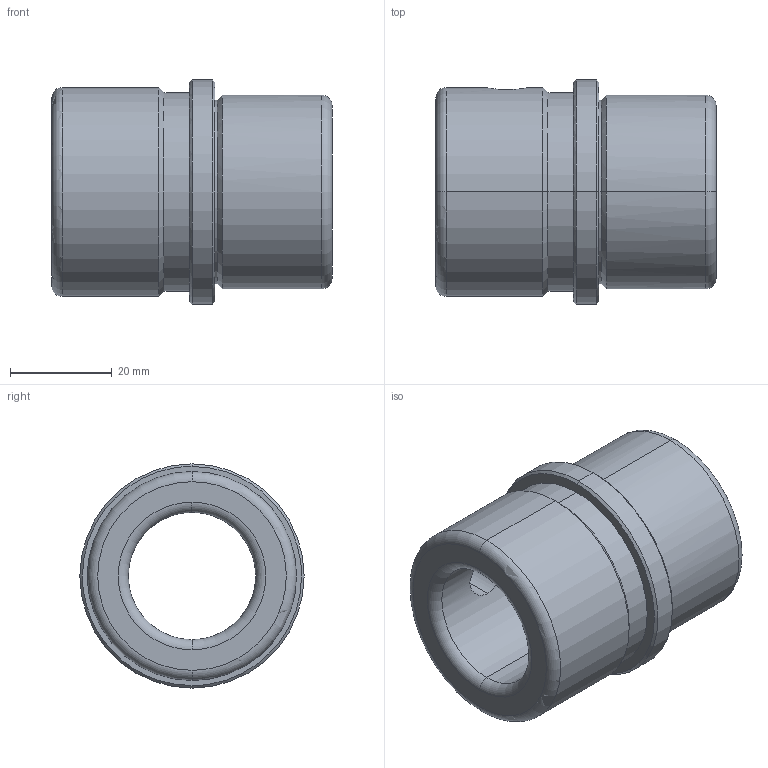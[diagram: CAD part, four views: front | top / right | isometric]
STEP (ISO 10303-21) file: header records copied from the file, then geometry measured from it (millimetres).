
FILE_DESCRIPTION(('CATIA V5 STEP Exchange'),'2;1');
FILE_NAME('C:\Users\Utente\Desktop\IO LAVORO\3D X SITO CF\X SITO\CF 641\CF 641 25 x 55.stp','2020-12-26T14:46:59+00:00',('none'),('none'),'CATIA Version 5 Release 20 GA (IN-10)','CATIA V5 STEP AP203','none');
FILE_SCHEMA(('CONFIG_CONTROL_DESIGN'));
Length unit declared in the file: millimetre
Products named in the file (1): CF 641 25 x 55
Bounding box: 55 x 44 x 44 mm (x, y, z)
Volume: 40482.5 mm3; surface area: 13433.8 mm2
Topology: 1 solids, 1 shells, 37 faces, 126 edges, 94 vertices
Faces by surface type: cylinder 14, cone 10, torus 8, plane 5
Entity records: 1642 total; most frequent: CARTESIAN_POINT 514, ORIENTED_EDGE 252, DIRECTION 178, EDGE_CURVE 126, AXIS2_PLACEMENT_3D 118, VERTEX_POINT 94, CIRCLE 80, EDGE_LOOP 44
